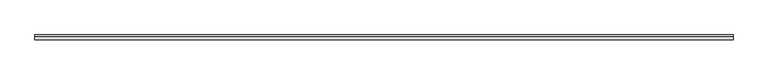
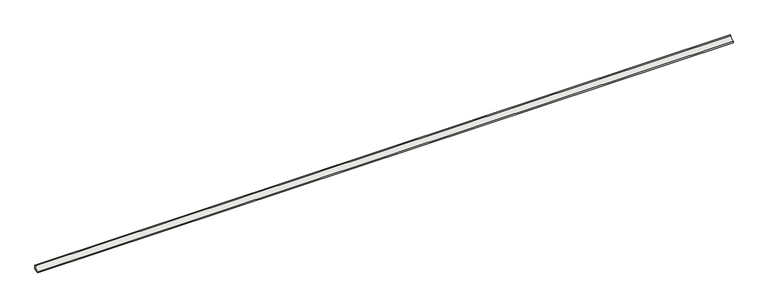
"""IFC4 building model written with IfcOpenShell, lengths in millimetres: slab geometry, ROSA GRES_188 : Pieza 188_Tresor_Java_Anti-Slip."""

from ifc_helpers import new_model, si_unit, point, frame, frame_2d, origin, place, context, project, spatial, polyline, circle_curve, trimmed, segment, composite_curve, outline, extrude, source, transform, mapped, element, save


def slab_ac93105a(model_context):
    return source(origin(), model_context, "Body", "SweptSolid", [
        extrude(outline(composite_curve([segment(polyline([(0.0, 8.7114978), (-8.7114978, 0.0), (-40.0, 0.0), (-40.0, 9.9734114)]), True, "CONTINUOUS"), segment(trimmed(circle_curve(frame_2d((-39.9955547, 39.9955547)), 30.0221435), [point((-40.0, 9.9734114))], [point((-9.9734114, 40.0))], True, "CARTESIAN"), True, "CONTINUOUS"), segment(polyline([(-9.9734114, 40.0), (0.0, 40.0), (0.0, 8.7114978)]), True, "CONTINUOUS")], self_intersect=False)), frame((0.0, 0.0, 0.0), z_axis=(1.0, 0.0, 0.0), x_axis=(0.0, 1.0, 0.0)), (0.0, 0.0, 1.0), 5559.9468229),
    ])


if __name__ == "__main__":
    model = new_model("IFC4")
    model_context = context("Model", 3, world=origin())
    ifc_project = project(units=[si_unit("LENGTHUNIT", "METRE", prefix="MILLI")], contexts=[model_context])
    site = spatial("IfcSite", under=ifc_project)
    building = spatial("IfcBuilding", under=site)
    placement = place(None, origin())
    slab_shape = slab_ac93105a(model_context)
    element("IfcSlab", 1, ObjectType="ROSA GRES_188 : Pieza 188_Tresor_Java_Anti-Slip", at=placement, inside=building, context=model_context, shape_type="MappedRepresentation", body=[
        mapped(slab_shape, transform((0.0, 0.0, 0.0), x_axis=(1.0, 0.0, 0.0), y_axis=(0.0, 1.0, 0.0), z_axis=(0.0, 0.0, 1.0))),
    ])
    save(model, "model.ifc")
